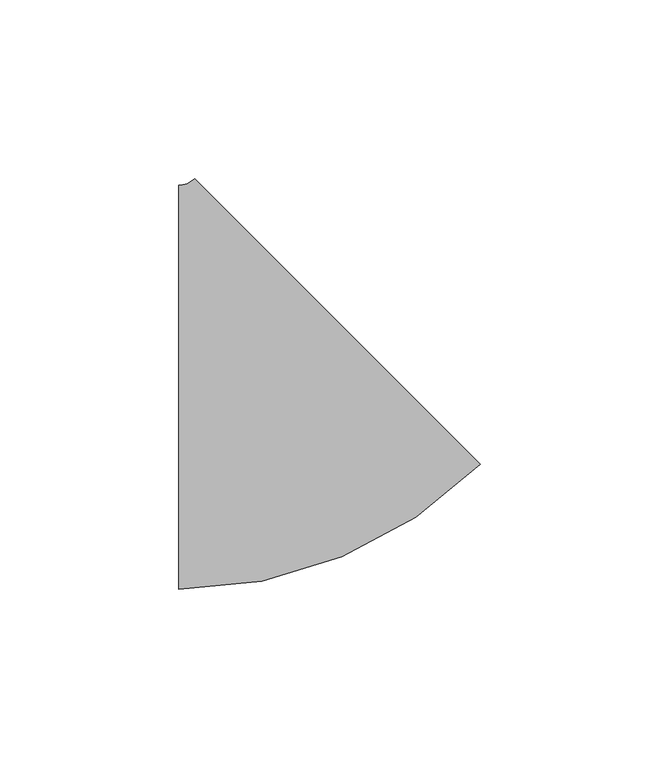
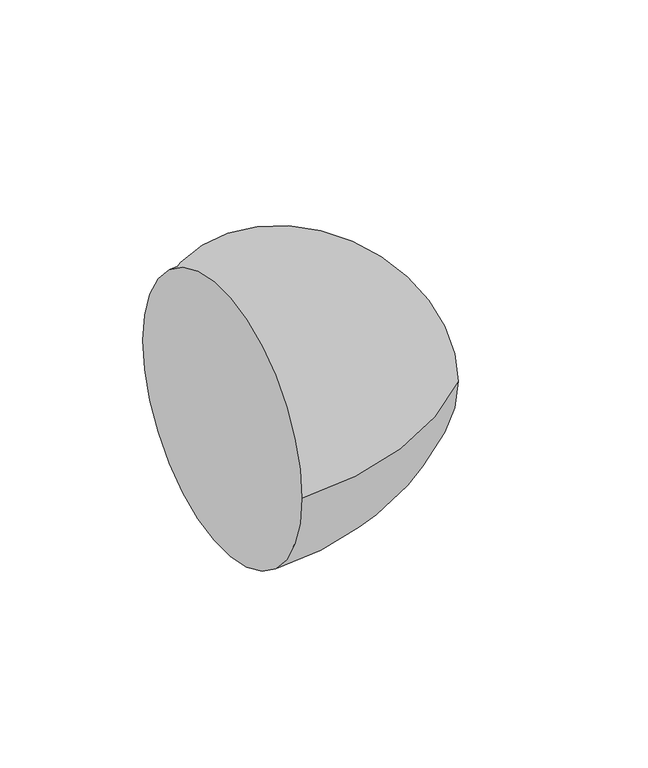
"""IFC4 building model written with IfcOpenShell, lengths in millimetres: pipe fitting geometry, M_Codo - Genérico : Estándar."""

import ifcopenshell
import ifcopenshell.guid

model = None  # the IFC model being written
_history = None  # IfcOwnerHistory: only IFC2X3 demands one
_inside = {}  # id of a spatial element -> (the spatial element, [elements in it])
_under = {}  # id of a project, library or spatial element -> (it, [spatial elements below it])
_declared = {}  # id of a project -> (the project, [libraries it declares])
_typed = {}  # id of a type object -> (the type object, [elements of that type])
_made_of = {}  # id of a material, layer set ... -> (it, [elements and type objects made of it])


def new_model(schema):
    """Start an empty IFC model of exactly this schema.

    Asked for "IFC4X3", IfcOpenShell would pick the latest addendum, in which some entities
    have other attributes; the version numbers below select the first issue.
    IFC2X3 requires an IfcOwnerHistory on every rooted entity: one is made here for all.
    """
    global model, _history
    if schema == "IFC4X3":
        model = ifcopenshell.file(schema_version=(4, 3, 0, 0))
    else:
        model = ifcopenshell.file(schema=schema)
    _inside.clear()
    _under.clear()
    _declared.clear()
    _typed.clear()
    _made_of.clear()
    _history = None
    if model.schema == "IFC2X3":
        org = make("IfcOrganization", Name="unknown")
        user = make(
            "IfcPersonAndOrganization",
            ThePerson=make("IfcPerson", FamilyName="unknown"),
            TheOrganization=org,
        )
        app = make(
            "IfcApplication",
            ApplicationDeveloper=org,
            Version="unknown",
            ApplicationFullName="unknown",
            ApplicationIdentifier="unknown",
        )
        _history = make(
            "IfcOwnerHistory",
            OwningUser=user,
            OwningApplication=app,
            ChangeAction="ADDED",
            CreationDate=0,
        )
    return model


def make(cls, **values):
    """One entity of the class cls with the attributes given. An attribute that is None is left unset."""
    return model.create_entity(
        cls, **{name: value for name, value in values.items() if value is not None}
    )


def rooted(cls, **values):
    """An entity with a GlobalId (a new one), such as an element, a storey or a relation."""
    return make(cls, GlobalId=ifcopenshell.guid.new(), OwnerHistory=_history, **values)


def si_unit(unit_type, name, prefix=None):
    """IfcSIUnit, for example si_unit("LENGTHUNIT", "METRE", prefix="MILLI")."""
    return make("IfcSIUnit", UnitType=unit_type, Prefix=prefix, Name=name)


def assignment(units):
    """IfcUnitAssignment: the units of a project."""
    return None if units is None else make("IfcUnitAssignment", Units=units)


def point(xyz):
    """IfcCartesianPoint."""
    return None if xyz is None else make("IfcCartesianPoint", Coordinates=xyz)


def direction(xyz):
    """IfcDirection."""
    return None if xyz is None else make("IfcDirection", DirectionRatios=xyz)


def frame(location, z_axis=None, x_axis=None):
    """IfcAxis2Placement3D, a coordinate frame: its origin and axes. An axis left out is left unset."""
    return make(
        "IfcAxis2Placement3D",
        Location=point(location),
        Axis=direction(z_axis),
        RefDirection=direction(x_axis),
    )


def origin():
    """The frame at (0, 0, 0) with its axes left unset."""
    return frame((0.0, 0.0, 0.0))


def place(relative_to, where):
    """IfcLocalPlacement: puts the frame where relative to a parent placement (None: the world)."""
    return make(
        "IfcLocalPlacement", PlacementRelTo=relative_to, RelativePlacement=where
    )


def context(
    kind, dimensions, precision=None, world=None, true_north=None, identifier=None
):
    """IfcGeometricRepresentationContext, for example the 3D "Model" context."""
    return make(
        "IfcGeometricRepresentationContext",
        ContextIdentifier=identifier,
        ContextType=kind,
        CoordinateSpaceDimension=dimensions,
        Precision=precision,
        WorldCoordinateSystem=world,
        TrueNorth=true_north,
    )


def project(units=None, contexts=None):
    """IfcProject with its units and contexts."""
    return rooted(
        "IfcProject",
        Name="project",
        RepresentationContexts=contexts,
        UnitsInContext=assignment(units),
    )


def spatial(cls, under=None, at=None, **own):
    """A site, building, storey or space (cls), placed at a placement, below another one or the project."""
    s = rooted(cls, ObjectPlacement=at, **own)
    if under is not None:
        _under.setdefault(under.id(), (under, []))[1].append(s)
    return s


def circle_curve(where, radius):
    """IfcCircle in the frame where."""
    return make("IfcCircle", Position=where, Radius=radius)


def ellipse_curve(where, semi_axis1, semi_axis2):
    """IfcEllipse in the frame where."""
    return make(
        "IfcEllipse", Position=where, SemiAxis1=semi_axis1, SemiAxis2=semi_axis2
    )


def trimmed(basis, trim1, trim2, sense, master):
    """IfcTrimmedCurve: the piece of a basis curve between two trims."""
    return make(
        "IfcTrimmedCurve",
        BasisCurve=basis,
        Trim1=trim1,
        Trim2=trim2,
        SenseAgreement=sense,
        MasterRepresentation=master,
    )


def shape(context_of_items, identifier, shape_type, items):
    """IfcShapeRepresentation: the items that make up one representation, for example the "Body"."""
    return make(
        "IfcShapeRepresentation",
        ContextOfItems=context_of_items,
        RepresentationIdentifier=identifier,
        RepresentationType=shape_type,
        Items=items,
    )


def source(mapping_origin, context_of_items, identifier, shape_type, items):
    """IfcRepresentationMap: a shape defined once, which mapped items show again and again."""
    return make(
        "IfcRepresentationMap",
        MappingOrigin=mapping_origin,
        MappedRepresentation=shape(context_of_items, identifier, shape_type, items),
    )


def transform(
    local_origin,
    x_axis=None,
    y_axis=None,
    z_axis=None,
    scale=None,
    scale2=None,
    scale3=None,
    uniform=True,
):
    """IfcCartesianTransformationOperator3D, or its non-uniform kind. x_axis, y_axis, z_axis: its Axis1, 2, 3."""
    if uniform:
        return make(
            "IfcCartesianTransformationOperator3D",
            Axis1=direction(x_axis),
            Axis2=direction(y_axis),
            LocalOrigin=point(local_origin),
            Scale=scale,
            Axis3=direction(z_axis),
        )
    return make(
        "IfcCartesianTransformationOperator3DnonUniform",
        Axis1=direction(x_axis),
        Axis2=direction(y_axis),
        LocalOrigin=point(local_origin),
        Scale=scale,
        Axis3=direction(z_axis),
        Scale2=scale2,
        Scale3=scale3,
    )


def mapped(mapping_source, mapping_target):
    """IfcMappedItem: shows the shape of a source again, moved by a transform."""
    return make(
        "IfcMappedItem", MappingSource=mapping_source, MappingTarget=mapping_target
    )


def made_of(thing, what):
    """Note that an element or type object is made of a material, layer set ...; save() writes the relation."""
    if what is not None:
        _made_of.setdefault(what.id(), (what, []))[1].append(thing)
    return thing


def element(
    cls,
    number,
    at=None,
    inside=None,
    cuts=None,
    type_object=None,
    material=None,
    context=None,
    identifier="Body",
    shape_type=None,
    held_by="IfcProductDefinitionShape",
    body=None,
    shapes=None,
    **own,
):
    """One element of the class cls, such as IfcWall. Its Tag is "e" and its number.

    at: its placement. inside: the storey or other place that contains it. cuts: it is an
    opening in that element (IfcRelVoidsElement). A single representation is given by context,
    identifier, shape_type and body (its items); several are given by shapes. held_by: the class
    of the entity that holds the representations. save() writes the other relations.
    """
    e = rooted(cls, Tag="e%d" % number, ObjectPlacement=at, **own)
    if body is not None:
        shapes = [shape(context, identifier, shape_type, body)]
    if shapes is not None:
        e.Representation = make(held_by, Representations=shapes)
    if inside is not None:
        _inside.setdefault(inside.id(), (inside, []))[1].append(e)
    if cuts is not None:
        rooted(
            "IfcRelVoidsElement", RelatingBuildingElement=cuts, RelatedOpeningElement=e
        )
    if type_object is not None:
        _typed.setdefault(type_object.id(), (type_object, []))[1].append(e)
    return made_of(e, material)


def aggregate(whole, parts):
    """IfcRelAggregates: a whole, such as a stair, and the parts it consists of."""
    return rooted("IfcRelAggregates", RelatingObject=whole, RelatedObjects=parts)


def save(model, path):
    """Write the relations noted so far, then the file.

    IfcRelAggregates (storeys below a building ...), IfcRelContainedInSpatialStructure (elements
    in a storey), IfcRelDefinesByType, IfcRelAssociatesMaterial and IfcRelDeclares: one each for
    every whole, place, type object, material and project.
    """
    for whole, parts in _under.values():
        aggregate(whole, parts)
    for where, things in _inside.values():
        rooted(
            "IfcRelContainedInSpatialStructure",
            RelatedElements=things,
            RelatingStructure=where,
        )
    for kind, things in _typed.values():
        rooted("IfcRelDefinesByType", RelatedObjects=things, RelatingType=kind)
    for what, things in _made_of.values():
        rooted("IfcRelAssociatesMaterial", RelatedObjects=things, RelatingMaterial=what)
    for by, libraries in _declared.values():
        rooted("IfcRelDeclares", RelatingContext=by, RelatedDefinitions=libraries)
    model.write(path)


def plane_surface(at):
    """IfcPlane: the flat surface through the origin of the frame at, square to its z axis."""
    return make("IfcPlane", Position=at)


def revolved_surface(curve, axis_point, axis_direction):
    """IfcSurfaceOfRevolution: the curve turned about the line through axis_point along axis_direction."""
    return make(
        "IfcSurfaceOfRevolution",
        SweptCurve=make("IfcArbitraryOpenProfileDef", ProfileType="CURVE", Curve=curve),
        AxisPosition=make("IfcAxis1Placement", Location=point(axis_point), Axis=direction(axis_direction)),
    )


def advanced_brep(points, edges, surfaces, faces):
    """IfcAdvancedBrep: a solid bounded by faces that lie on surfaces and meet in shared edges.

    An edge is (start, end): straight between two places in points (the first is 0);
    or (start, end, curve); or (start, end, curve, False) where it runs against its curve.
    A face is (place in surfaces, loops), or (place, loops, False) where it looks against
    its surface's normal. A loop lists edges by number (the first is 1), with a minus sign
    where the edge is run from its end to its start. The first loop is the outer one.
    """
    corners = [point(p) for p in points]
    vertices = [make("IfcVertexPoint", VertexGeometry=c) for c in corners]
    made = []
    for start, end, *more in edges:
        made.append(
            make(
                "IfcEdgeCurve",
                EdgeStart=vertices[start],
                EdgeEnd=vertices[end],
                EdgeGeometry=more[0] if more else make("IfcPolyline", Points=[corners[start], corners[end]]),
                SameSense=more[1] if len(more) > 1 else True,
            )
        )
    hull = []
    for where, loops, *sense in faces:
        bounds = []
        for j, loop in enumerate(loops):
            ring = [make("IfcOrientedEdge", EdgeElement=made[abs(k) - 1], Orientation=k > 0) for k in loop]
            bounds.append(
                make(
                    "IfcFaceOuterBound" if j == 0 else "IfcFaceBound",
                    Bound=make("IfcEdgeLoop", EdgeList=ring),
                    Orientation=True,
                )
            )
        hull.append(make("IfcAdvancedFace", Bounds=bounds, FaceSurface=surfaces[where], SameSense=sense[0] if sense else True))
    return make("IfcAdvancedBrep", Outer=make("IfcClosedShell", CfsFaces=hull))


def pipe_fitting_c22913b9(model_context):
    return source(origin(), model_context, "Body", "AdvancedBrep", [
        advanced_brep(
        [(-26.0681071, -56.5875, 0.0), (-26.0681071, 56.5875, 0.0), (58.4454862, -21.5827827, 0.0), (-21.5781567, 58.4471942, 0.0)],
        [
            (0, 1, circle_curve(frame((-26.0681071, 0.0, 0.0), z_axis=(-1.0, 0.0, 0.0), x_axis=(0.0, 1.0, 0.0)), 56.5875)),
            (1, 0, circle_curve(frame((-26.0681071, 0.0, 0.0), z_axis=(-1.0, 0.0, 0.0), x_axis=(0.0, 1.0, 0.0)), 56.5875)),
            (2, 3, circle_curve(frame((18.4336647, 18.4322058, 0.0), z_axis=(0.7071347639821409, 0.707078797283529, 0.0), x_axis=(-0.707078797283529, 0.7071347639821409, 0.0)), 56.5875)),
            (3, 2, circle_curve(frame((18.4336647, 18.4322058, 0.0), z_axis=(0.7071347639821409, 0.707078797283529, 0.0), x_axis=(-0.707078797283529, 0.7071347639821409, 0.0)), 56.5875)),
            (3, 1, circle_curve(frame((-26.0681071, 62.9375, 0.0), z_axis=(0.0, 0.0, -1.0), x_axis=(0.0, -1.0, 0.0)), 6.35)),
            (0, 2, circle_curve(frame((-26.0681071, 62.9375, 0.0), z_axis=(0.0, 0.0, 1.0), x_axis=(0.0, -1.0, 0.0)), 119.525)),
        ],
        [
            plane_surface(frame((-26.0681071, 0.0, 0.0), z_axis=(-1.0, 0.0, 0.0), x_axis=(0.0, 0.0, 1.0))),
            plane_surface(frame((18.4336647, 18.4322058, 0.0), z_axis=(0.7071347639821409, 0.707078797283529, 0.0), x_axis=(0.0, 0.0, 1.0))),
            revolved_surface(trimmed(ellipse_curve(frame((-26.0681071, 0.0, 0.0), z_axis=(-1.0, 0.0, 0.0), x_axis=(0.0, 1.0, 0.0)), 56.5875, 56.5875), [point((-26.0681071, -56.5875, 0.0))], [point((-26.0681071, 56.5875, 0.0))], True, "CARTESIAN"), (-26.0681071, 62.9375, 0.0), (0.0, 0.0, 1.0)),
            revolved_surface(trimmed(ellipse_curve(frame((-26.0681071, 0.0, 0.0), z_axis=(-1.0, 0.0, 0.0), x_axis=(0.0, 1.0, 0.0)), 56.5875, 56.5875), [point((-26.0681071, 56.5875, 0.0))], [point((-26.0681071, -56.5875, 0.0))], True, "CARTESIAN"), (-26.0681071, 62.9375, 0.0), (0.0, 0.0, 1.0)),
        ],
        [
            (0, [[1, 2]]),
            (1, [[3, 4]]),
            (2, [[5, -1, 6, -4]]),
            (3, [[-6, -2, -5, -3]]),
        ],
    ),
    ])


if __name__ == "__main__":
    model = new_model("IFC4")
    model_context = context("Model", 3, world=origin())
    ifc_project = project(units=[si_unit("LENGTHUNIT", "METRE", prefix="MILLI")], contexts=[model_context])
    site = spatial("IfcSite", under=ifc_project)
    building = spatial("IfcBuilding", under=site)
    placement = place(None, origin())
    pipe_fitting_shape = pipe_fitting_c22913b9(model_context)
    element("IfcPipeFitting", 1, ObjectType="M_Codo - Genérico : Estándar", at=placement, inside=building, context=model_context, shape_type="MappedRepresentation", body=[
        mapped(pipe_fitting_shape, transform((0.0, 0.0, 0.0), x_axis=(1.0, 0.0, 0.0), y_axis=(0.0, 1.0, 0.0), z_axis=(0.0, 0.0, 1.0))),
    ])
    save(model, "model.ifc")
